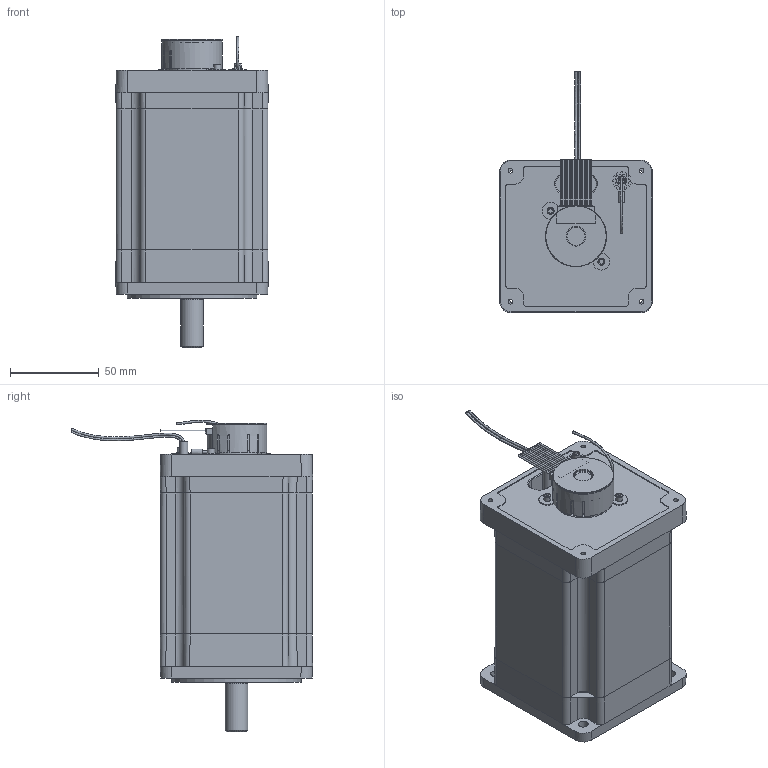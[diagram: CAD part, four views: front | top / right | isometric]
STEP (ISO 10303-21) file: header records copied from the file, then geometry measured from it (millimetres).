
FILE_DESCRIPTION((''),'2;1');
FILE_NAME('C:\CAD_work\Dummy_Modeling_Project_02-12-05\3D MODELS\BE343_FO.stp','2005-12-20T16:09:24',('jevans'),(''),'Autodesk Inventor 10','Autodesk Inventor 10','');
FILE_SCHEMA(('AUTOMOTIVE_DESIGN { 1 0 10303 214 1 1 1 1 }'));
Length unit declared in the file: inch
Products named in the file (1): BE34_FO
Bounding box: 85.66 x 135.58 x 175.16 mm (x, y, z)
Volume: 835417.2 mm3; surface area: 80012 mm2
Topology: 7 solids, 7 shells, 620 faces, 1591 edges, 1038 vertices
Faces by surface type: plane 350, cylinder 146, bspline 108, cone 15, torus 1
Full cylindrical faces by diameter (mm): 1.016 x13, 1.27 x1, 2.159 x2, 2.5 x2, 3.02 x1, 3.871 x1, 4.013 x3, 4.762 x1, 4.953 x1, 9.525 x2, 10.16 x1, 10.312 x1, 11.176 x1, 12.7 x1, 14.994 x1, 15 x1, 32 x1, 32.007 x1, 32.995 x1, 34.036 x1, 35.001 x1, 36.779 x1, 37.109 x1, 41.326 x3, 73.025 x1
Entity records: 22614 total; most frequent: CARTESIAN_POINT 8368, ORIENTED_EDGE 2982, DIRECTION 2651, EDGE_CURVE 1491, VERTEX_POINT 1013, VECTOR 935, LINE 935, AXIS2_PLACEMENT_3D 858
